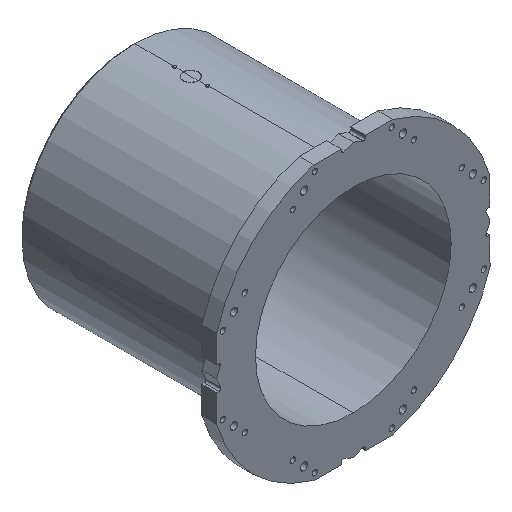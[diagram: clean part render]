
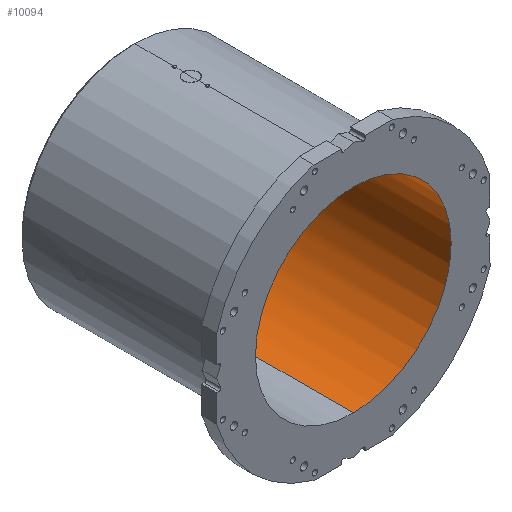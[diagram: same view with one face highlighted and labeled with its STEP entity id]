
A CAD part, isometric view. The second image highlights one B-rep face of the part: STEP entity #10094.
In plain terms, the highlighted cylindrical face has radius 265 mm (diameter 530 mm), a partial arc.
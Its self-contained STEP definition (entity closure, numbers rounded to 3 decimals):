
#340 = DIRECTION ( 'NONE',  ( 0., 1., 0. ) ) ;
#1039 = DIRECTION ( 'NONE',  ( 0., 0., 1. ) ) ;
#1220 = DIRECTION ( 'NONE',  ( 0., 0., 1. ) ) ;
#1495 = ORIENTED_EDGE ( 'NONE', *, *, #2847, .T. ) ;
#1854 = CARTESIAN_POINT ( 'NONE',  ( 0., 0., 0. ) ) ;
#1875 = CARTESIAN_POINT ( 'NONE',  ( 0., 0., -265. ) ) ;
#1975 = DIRECTION ( 'NONE',  ( 0., 1., 0. ) ) ;
#2847 = EDGE_CURVE ( 'NONE', #5698, #6773, #9647, .T. ) ;
#2863 = CARTESIAN_POINT ( 'NONE',  ( 0., 0., 265. ) ) ;
#3091 = VERTEX_POINT ( 'NONE', #12892 ) ;
#3713 = CYLINDRICAL_SURFACE ( 'NONE', #10776, 265. ) ;
#3741 = AXIS2_PLACEMENT_3D ( 'NONE', #11290, #1975, #1039 ) ;
#5340 = VECTOR ( 'NONE', #8451, 1000. ) ;
#5575 = EDGE_LOOP ( 'NONE', ( #11241, #6407, #1495, #12050 ) ) ;
#5694 = DIRECTION ( 'NONE',  ( 0., 1., 0. ) ) ;
#5698 = VERTEX_POINT ( 'NONE', #2863 ) ;
#6132 = CARTESIAN_POINT ( 'NONE',  ( 0., 563., 265. ) ) ;
#6231 = CIRCLE ( 'NONE', #9634, 265. ) ;
#6270 = EDGE_CURVE ( 'NONE', #8242, #3091, #7329, .T. ) ;
#6288 = CIRCLE ( 'NONE', #3741, 265. ) ;
#6407 = ORIENTED_EDGE ( 'NONE', *, *, #7899, .F. ) ;
#6773 = VERTEX_POINT ( 'NONE', #6132 ) ;
#6978 = EDGE_CURVE ( 'NONE', #6773, #3091, #6231, .T. ) ;
#7329 = LINE ( 'NONE', #8266, #7716 ) ;
#7716 = VECTOR ( 'NONE', #340, 1000. ) ;
#7899 = EDGE_CURVE ( 'NONE', #5698, #8242, #6288, .T. ) ;
#8242 = VERTEX_POINT ( 'NONE', #1875 ) ;
#8266 = CARTESIAN_POINT ( 'NONE',  ( 0., 0., -265. ) ) ;
#8451 = DIRECTION ( 'NONE',  ( 0., 1., 0. ) ) ;
#9634 = AXIS2_PLACEMENT_3D ( 'NONE', #12394, #10464, #1220 ) ;
#9647 = LINE ( 'NONE', #11516, #5340 ) ;
#10094 = ADVANCED_FACE ( 'NONE', ( #10975 ), #3713, .F. ) ;
#10464 = DIRECTION ( 'NONE',  ( 0., 1., 0. ) ) ;
#10776 = AXIS2_PLACEMENT_3D ( 'NONE', #1854, #5694, #11816 ) ;
#10975 = FACE_OUTER_BOUND ( 'NONE', #5575, .T. ) ;
#11241 = ORIENTED_EDGE ( 'NONE', *, *, #6270, .F. ) ;
#11290 = CARTESIAN_POINT ( 'NONE',  ( 0., 0., 0. ) ) ;
#11516 = CARTESIAN_POINT ( 'NONE',  ( 0., 0., 265. ) ) ;
#11816 = DIRECTION ( 'NONE',  ( 0., 0., 1. ) ) ;
#12050 = ORIENTED_EDGE ( 'NONE', *, *, #6978, .T. ) ;
#12394 = CARTESIAN_POINT ( 'NONE',  ( 0., 563., 0. ) ) ;
#12892 = CARTESIAN_POINT ( 'NONE',  ( 0., 563., -265. ) ) ;
